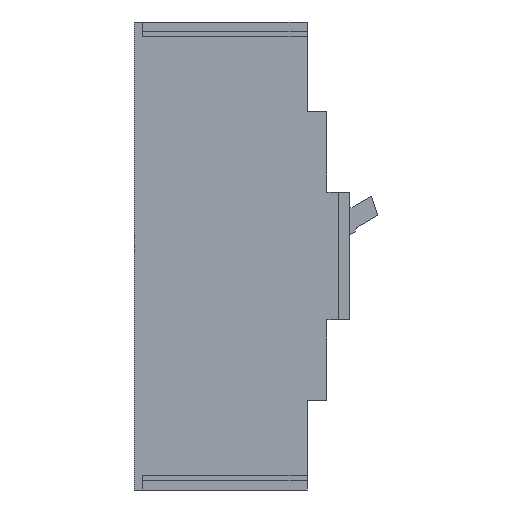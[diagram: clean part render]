
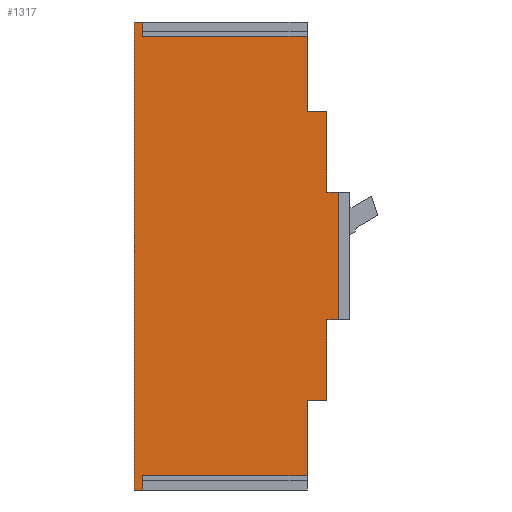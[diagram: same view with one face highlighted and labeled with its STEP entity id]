
A CAD part, left-side view. The second image highlights one B-rep face of the part: STEP entity #1317.
In plain terms, the highlighted planar face has unit normal (-1, 0, 0).
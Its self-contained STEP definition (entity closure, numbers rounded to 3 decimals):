
#2=DIRECTION('',(0.,0.,-1.));
#3=VECTOR('',#2,5.);
#4=CARTESIAN_POINT('',(-17.5,27.5,82.5));
#5=LINE('',#4,#3);
#6=DIRECTION('',(0.,-1.,0.));
#7=VECTOR('',#6,58.);
#8=CARTESIAN_POINT('',(-17.5,27.5,77.5));
#9=LINE('',#8,#7);
#10=DIRECTION('',(0.,0.,-1.));
#11=VECTOR('',#10,26.5);
#12=CARTESIAN_POINT('',(-17.5,-30.5,77.5));
#13=LINE('',#12,#11);
#14=DIRECTION('',(0.,-1.,0.));
#15=VECTOR('',#14,7.);
#16=CARTESIAN_POINT('',(-17.5,-30.5,51.));
#17=LINE('',#16,#15);
#18=DIRECTION('',(0.,-1.,0.));
#19=VECTOR('',#18,4.);
#20=CARTESIAN_POINT('',(-17.5,-37.5,22.5));
#21=LINE('',#20,#19);
#22=DIRECTION('',(0.,1.,0.));
#23=VECTOR('',#22,7.);
#24=CARTESIAN_POINT('',(-17.5,-37.5,-51.));
#25=LINE('',#24,#23);
#26=DIRECTION('',(0.,0.,-1.));
#27=VECTOR('',#26,26.5);
#28=CARTESIAN_POINT('',(-17.5,-30.5,-51.));
#29=LINE('',#28,#27);
#30=DIRECTION('',(0.,-1.,0.));
#31=VECTOR('',#30,58.);
#32=CARTESIAN_POINT('',(-17.5,27.5,-77.5));
#33=LINE('',#32,#31);
#34=DIRECTION('',(0.,0.,1.));
#35=VECTOR('',#34,5.);
#36=CARTESIAN_POINT('',(-17.5,27.5,-82.5));
#37=LINE('',#36,#35);
#38=DIRECTION('',(0.,1.,0.));
#39=VECTOR('',#38,3.);
#40=CARTESIAN_POINT('',(-17.5,27.5,-82.5));
#41=LINE('',#40,#39);
#42=DIRECTION('',(0.,0.,1.));
#43=VECTOR('',#42,165.);
#44=CARTESIAN_POINT('',(-17.5,30.5,-82.5));
#45=LINE('',#44,#43);
#46=DIRECTION('',(0.,-1.,0.));
#47=VECTOR('',#46,3.);
#48=CARTESIAN_POINT('',(-17.5,30.5,82.5));
#49=LINE('',#48,#47);
#530=DIRECTION('',(0.,0.,1.));
#531=VECTOR('',#530,28.5);
#532=CARTESIAN_POINT('',(-17.5,-37.5,22.5));
#533=LINE('',#532,#531);
#546=DIRECTION('',(0.,0.,1.));
#547=VECTOR('',#546,28.5);
#548=CARTESIAN_POINT('',(-17.5,-37.5,-51.));
#549=LINE('',#548,#547);
#574=DIRECTION('',(0.,0.,-1.));
#575=VECTOR('',#574,45.);
#576=CARTESIAN_POINT('',(-17.5,-41.5,22.5));
#577=LINE('',#576,#575);
#598=DIRECTION('',(0.,-1.,0.));
#599=VECTOR('',#598,4.);
#600=CARTESIAN_POINT('',(-17.5,-37.5,-22.5));
#601=LINE('',#600,#599);
#966=CARTESIAN_POINT('',(-17.5,30.5,-82.5));
#967=CARTESIAN_POINT('',(-17.5,30.5,82.5));
#968=VERTEX_POINT('',#966);
#969=VERTEX_POINT('',#967);
#970=CARTESIAN_POINT('',(-17.5,-37.5,-51.));
#971=CARTESIAN_POINT('',(-17.5,-30.5,-51.));
#972=VERTEX_POINT('',#970);
#973=VERTEX_POINT('',#971);
#1084=CARTESIAN_POINT('',(-17.5,-30.5,-77.5));
#1085=VERTEX_POINT('',#1084);
#1100=CARTESIAN_POINT('',(-17.5,-30.5,51.));
#1101=CARTESIAN_POINT('',(-17.5,-37.5,51.));
#1102=VERTEX_POINT('',#1100);
#1103=VERTEX_POINT('',#1101);
#1146=CARTESIAN_POINT('',(-17.5,27.5,-77.5));
#1147=VERTEX_POINT('',#1146);
#1150=CARTESIAN_POINT('',(-17.5,27.5,-82.5));
#1151=VERTEX_POINT('',#1150);
#1224=CARTESIAN_POINT('',(-17.5,27.5,77.5));
#1225=VERTEX_POINT('',#1224);
#1242=CARTESIAN_POINT('',(-17.5,27.5,82.5));
#1243=VERTEX_POINT('',#1242);
#1244=CARTESIAN_POINT('',(-17.5,-30.5,77.5));
#1245=VERTEX_POINT('',#1244);
#1258=CARTESIAN_POINT('',(-17.5,-41.5,22.5));
#1259=CARTESIAN_POINT('',(-17.5,-41.5,-22.5));
#1260=VERTEX_POINT('',#1258);
#1261=VERTEX_POINT('',#1259);
#1270=CARTESIAN_POINT('',(-17.5,-37.5,-22.5));
#1271=VERTEX_POINT('',#1270);
#1272=CARTESIAN_POINT('',(-17.5,-37.5,22.5));
#1273=VERTEX_POINT('',#1272);
#1278=CARTESIAN_POINT('',(-17.5,0.,0.));
#1279=DIRECTION('',(1.,0.,0.));
#1280=DIRECTION('',(0.,-1.,0.));
#1281=AXIS2_PLACEMENT_3D('',#1278,#1279,#1280);
#1282=PLANE('',#1281);
#1284=ORIENTED_EDGE('',*,*,#1283,.T.);
#1286=ORIENTED_EDGE('',*,*,#1285,.T.);
#1288=ORIENTED_EDGE('',*,*,#1287,.T.);
#1290=ORIENTED_EDGE('',*,*,#1289,.T.);
#1292=ORIENTED_EDGE('',*,*,#1291,.F.);
#1294=ORIENTED_EDGE('',*,*,#1293,.T.);
#1296=ORIENTED_EDGE('',*,*,#1295,.T.);
#1298=ORIENTED_EDGE('',*,*,#1297,.F.);
#1300=ORIENTED_EDGE('',*,*,#1299,.F.);
#1302=ORIENTED_EDGE('',*,*,#1301,.T.);
#1304=ORIENTED_EDGE('',*,*,#1303,.T.);
#1306=ORIENTED_EDGE('',*,*,#1305,.F.);
#1308=ORIENTED_EDGE('',*,*,#1307,.F.);
#1310=ORIENTED_EDGE('',*,*,#1309,.T.);
#1312=ORIENTED_EDGE('',*,*,#1311,.T.);
#1314=ORIENTED_EDGE('',*,*,#1313,.T.);
#1315=EDGE_LOOP('',(#1284,#1286,#1288,#1290,#1292,#1294,#1296,#1298,#1300,#1302,
#1304,#1306,#1308,#1310,#1312,#1314));
#1316=FACE_OUTER_BOUND('',#1315,.F.);
#1283=EDGE_CURVE('',#1243,#1225,#5,.T.);
#1285=EDGE_CURVE('',#1225,#1245,#9,.T.);
#1287=EDGE_CURVE('',#1245,#1102,#13,.T.);
#1289=EDGE_CURVE('',#1102,#1103,#17,.T.);
#1291=EDGE_CURVE('',#1273,#1103,#533,.T.);
#1293=EDGE_CURVE('',#1273,#1260,#21,.T.);
#1295=EDGE_CURVE('',#1260,#1261,#577,.T.);
#1297=EDGE_CURVE('',#1271,#1261,#601,.T.);
#1299=EDGE_CURVE('',#972,#1271,#549,.T.);
#1301=EDGE_CURVE('',#972,#973,#25,.T.);
#1303=EDGE_CURVE('',#973,#1085,#29,.T.);
#1305=EDGE_CURVE('',#1147,#1085,#33,.T.);
#1307=EDGE_CURVE('',#1151,#1147,#37,.T.);
#1309=EDGE_CURVE('',#1151,#968,#41,.T.);
#1311=EDGE_CURVE('',#968,#969,#45,.T.);
#1313=EDGE_CURVE('',#969,#1243,#49,.T.);
#1317=ADVANCED_FACE('',(#1316),#1282,.F.);
